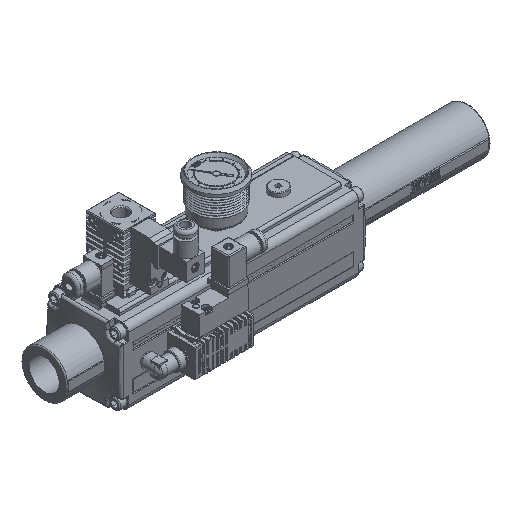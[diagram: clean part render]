
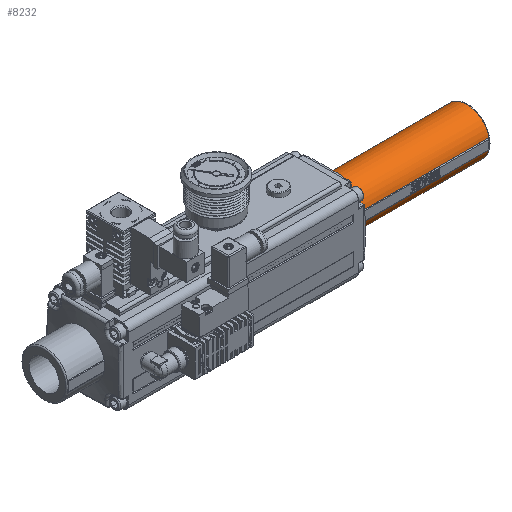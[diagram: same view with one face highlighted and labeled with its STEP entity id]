
A CAD part, isometric view. The second image highlights one B-rep face of the part: STEP entity #8232.
In plain terms, the highlighted cylindrical face has radius 19.6 mm (diameter 39.2 mm), a full revolution.
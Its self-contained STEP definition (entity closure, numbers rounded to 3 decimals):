
#8232 = ADVANCED_FACE( '', ( #17232, #17233 ), #17234, .T. );
#17232 = FACE_OUTER_BOUND( '', #29178, .T. );
#17233 = FACE_OUTER_BOUND( '', #29179, .T. );
#17234 = CYLINDRICAL_SURFACE( '', #29180, 19.6 );
#29178 = EDGE_LOOP( '', ( #53491, #53492, #53493, #53494, #53495, #53496, #53497, #53498 ) );
#29179 = EDGE_LOOP( '', ( #53499 ) );
#29180 = AXIS2_PLACEMENT_3D( '', #53500, #53501, #53502 );
#53491 = ORIENTED_EDGE( '', *, *, #64270, .F. );
#53492 = ORIENTED_EDGE( '', *, *, #64650, .F. );
#53493 = ORIENTED_EDGE( '', *, *, #59182, .T. );
#53494 = ORIENTED_EDGE( '', *, *, #63759, .T. );
#53495 = ORIENTED_EDGE( '', *, *, #64911, .F. );
#53496 = ORIENTED_EDGE( '', *, *, #63409, .F. );
#53497 = ORIENTED_EDGE( '', *, *, #59835, .T. );
#53498 = ORIENTED_EDGE( '', *, *, #63756, .T. );
#53499 = ORIENTED_EDGE( '', *, *, #57223, .T. );
#53500 = CARTESIAN_POINT( '', ( -64.5, 0., 0. ) );
#53501 = DIRECTION( '', ( 1., 0., 0. ) );
#53502 = DIRECTION( '', ( 0., 0., -1. ) );
#57223 = EDGE_CURVE( '', #68349, #68349, #68350, .T. );
#59182 = EDGE_CURVE( '', #71592, #71596, #71598, .T. );
#59835 = EDGE_CURVE( '', #72618, #72623, #72625, .T. );
#63409 = EDGE_CURVE( '', #72618, #77603, #77606, .T. );
#63756 = EDGE_CURVE( '', #72623, #78023, #78025, .T. );
#63759 = EDGE_CURVE( '', #71596, #78027, #78029, .T. );
#64270 = EDGE_CURVE( '', #78621, #78023, #78623, .T. );
#64650 = EDGE_CURVE( '', #71592, #78621, #79053, .T. );
#64911 = EDGE_CURVE( '', #77603, #78027, #79328, .T. );
#68349 = VERTEX_POINT( '', #84698 );
#68350 = CIRCLE( '', #84699, 19.6 );
#71592 = VERTEX_POINT( '', #90041 );
#71596 = VERTEX_POINT( '', #90047 );
#71598 = LINE( '', #90050, #90051 );
#72618 = VERTEX_POINT( '', #91734 );
#72623 = VERTEX_POINT( '', #91741 );
#72625 = LINE( '', #91744, #91745 );
#77603 = VERTEX_POINT( '', #100382 );
#77606 = CIRCLE( '', #100387, 19.6 );
#78023 = VERTEX_POINT( '', #101209 );
#78025 = CIRCLE( '', #101212, 19.6 );
#78027 = VERTEX_POINT( '', #101215 );
#78029 = CIRCLE( '', #101218, 19.6 );
#78621 = VERTEX_POINT( '', #102247 );
#78623 = LINE( '', #102250, #102251 );
#79053 = CIRCLE( '', #102922, 19.6 );
#79328 = LINE( '', #103300, #103301 );
#84698 = CARTESIAN_POINT( '', ( -63.5, 0., -19.6 ) );
#84699 = AXIS2_PLACEMENT_3D( '', #105805, #105806, #105807 );
#90041 = CARTESIAN_POINT( '', ( -63., -19.076, 4.5 ) );
#90047 = CARTESIAN_POINT( '', ( 50.5, -19.076, 4.5 ) );
#90050 = CARTESIAN_POINT( '', ( -64.5, -19.076, 4.5 ) );
#90051 = VECTOR( '', #108148, 1000. );
#91734 = CARTESIAN_POINT( '', ( -63., 19.076, -4.5 ) );
#91741 = CARTESIAN_POINT( '', ( 50.5, 19.076, -4.5 ) );
#91744 = CARTESIAN_POINT( '', ( -64.5, 19.076, -4.5 ) );
#91745 = VECTOR( '', #108909, 1000. );
#100382 = CARTESIAN_POINT( '', ( -63., 19.076, 4.5 ) );
#100387 = AXIS2_PLACEMENT_3D( '', #112657, #112658, #112659 );
#101209 = CARTESIAN_POINT( '', ( 50.5, -19.076, -4.5 ) );
#101212 = AXIS2_PLACEMENT_3D( '', #112956, #112957, #112958 );
#101215 = CARTESIAN_POINT( '', ( 50.5, 19.076, 4.5 ) );
#101218 = AXIS2_PLACEMENT_3D( '', #112961, #112962, #112963 );
#102247 = CARTESIAN_POINT( '', ( -63., -19.076, -4.5 ) );
#102250 = CARTESIAN_POINT( '', ( -64.5, -19.076, -4.5 ) );
#102251 = VECTOR( '', #113371, 1000. );
#102922 = AXIS2_PLACEMENT_3D( '', #113668, #113669, #113670 );
#103300 = CARTESIAN_POINT( '', ( -64.5, 19.076, 4.5 ) );
#103301 = VECTOR( '', #113783, 1000. );
#105805 = CARTESIAN_POINT( '', ( -63.5, 0., 0. ) );
#105806 = DIRECTION( '', ( 1., 0., 0. ) );
#105807 = DIRECTION( '', ( 0., 0., -1. ) );
#108148 = DIRECTION( '', ( 1., 0., 0. ) );
#108909 = DIRECTION( '', ( 1., 0., 0. ) );
#112657 = CARTESIAN_POINT( '', ( -63., 0., 0. ) );
#112658 = DIRECTION( '', ( 1., 0., 0. ) );
#112659 = DIRECTION( '', ( 0., 0., 1. ) );
#112956 = CARTESIAN_POINT( '', ( 50.5, 0., 0. ) );
#112957 = DIRECTION( '', ( -1., 0., 0. ) );
#112958 = DIRECTION( '', ( 0., 1., 0. ) );
#112961 = CARTESIAN_POINT( '', ( 50.5, 0., 0. ) );
#112962 = DIRECTION( '', ( -1., 0., 0. ) );
#112963 = DIRECTION( '', ( 0., 1., 0. ) );
#113371 = DIRECTION( '', ( 1., 0., 0. ) );
#113668 = CARTESIAN_POINT( '', ( -63., 0., 0. ) );
#113669 = DIRECTION( '', ( 1., 0., 0. ) );
#113670 = DIRECTION( '', ( 0., 0., 1. ) );
#113783 = DIRECTION( '', ( 1., 0., 0. ) );
